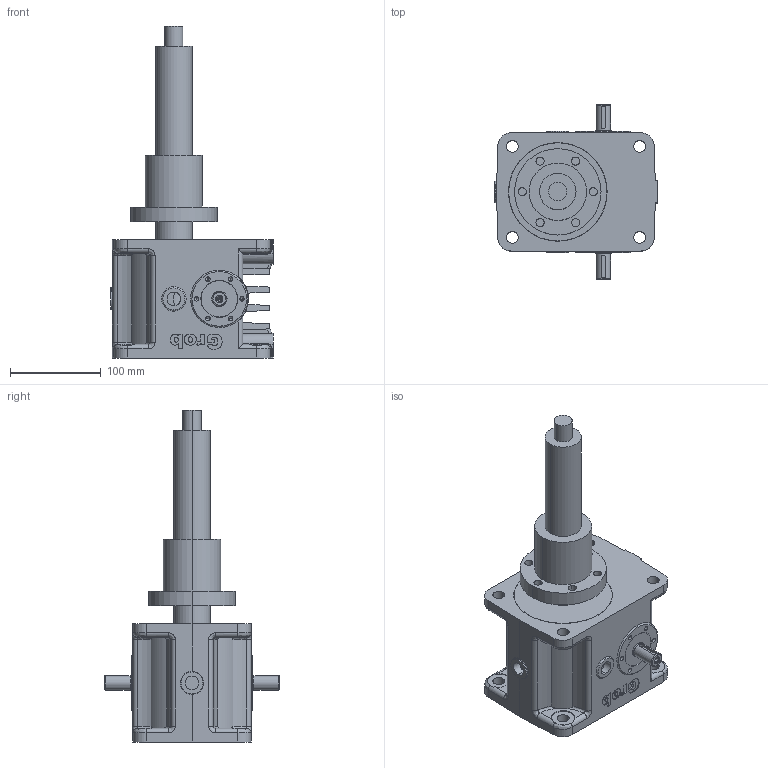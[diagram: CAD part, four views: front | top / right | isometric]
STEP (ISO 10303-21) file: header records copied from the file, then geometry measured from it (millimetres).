
FILE_DESCRIPTION(('STEP AP203'),'1');
FILE_NAME('hmc_2_5-lmn-kd-1f-z-0100-0213-tr40x8-bpos0.stp','2025-08-19T11:40:13',('TraceParts'),('TraceParts S.A.'),'Spatial InterOp 3D',' ',' ');
FILE_SCHEMA(('CONFIG_CONTROL_DESIGN'));
Length unit declared in the file: millimetre
Products named in the file (1): 1
Bounding box: 179 x 192 x 365 mm (x, y, z)
Volume: 2792416.1 mm3; surface area: 205143.9 mm2
Topology: 2 solids, 2 shells, 484 faces, 1248 edges, 790 vertices
Faces by surface type: cylinder 181, plane 139, bspline 112, cone 48, torus 4
Entity records: 18431 total; most frequent: CARTESIAN_POINT 7396, ORIENTED_EDGE 2440, DIRECTION 2008, EDGE_CURVE 1220, VERTEX_POINT 790, AXIS2_PLACEMENT_3D 735, EDGE_LOOP 564, LINE 538
